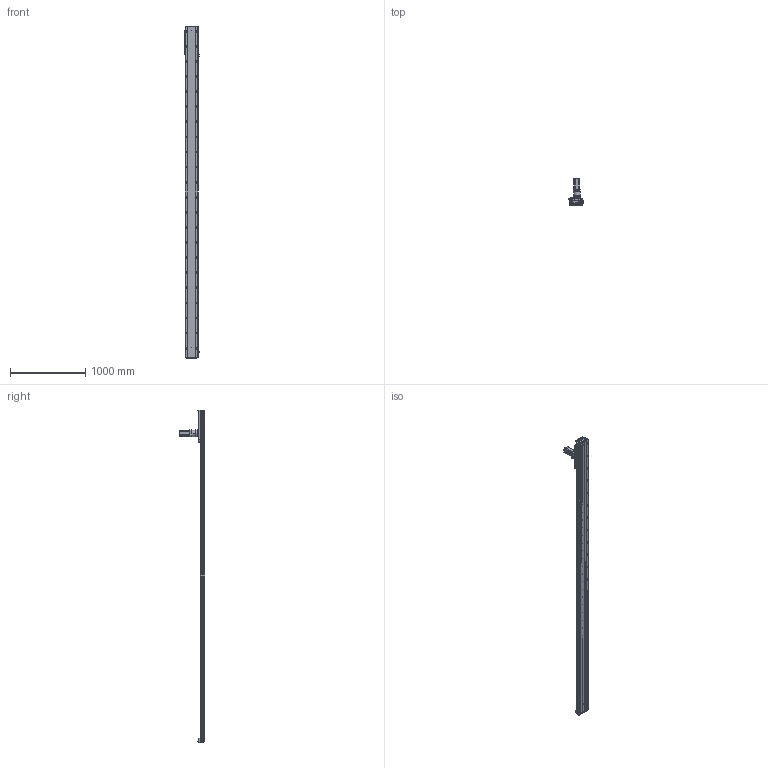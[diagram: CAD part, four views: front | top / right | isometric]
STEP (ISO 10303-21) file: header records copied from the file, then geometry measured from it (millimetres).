
FILE_DESCRIPTION (( 'STEP AP203' ), '1' );
FILE_NAME ('RY170-C-1000-UK.SLDASM_3900.step', '2021-03-03T00:49:37', ( '盈信电脑' ), ( '东莞市道滘镇水果街19号' ), 'SwSTEP 2.0', 'SolidWorks 2012', '' );
FILE_SCHEMA (( 'CONFIG_CONTROL_DESIGN' ));
Products named in the file (13): RY170-喘沭賑輸; RY170-C-1000-UK.SLDASM_3900; RY170-喘沭滅袉蝶輸; 怢湛750W萇儂ㄗ80遺ㄘ; 左旋斜齿齿轮_M2_22齿_内孔20; TF080等撰; RY170綴裔啣ㄗ蜊秶ㄘ; RY170外置感应片(200共用）; 覜茼ん672; RY170-喘謫萇儂覃誹啣; RY170-1000-喘沭耀郪絳寢EGH20CA_3900; 絳寢賑輸EGH20CA; RY170-1000齿条模组型材底座_3900
Assembly tree (22 placements, depth 2):
  RY170-C-1000-UK.SLDASM_3900
    RY170-1000齿条模组型材底座_3900
    絳寢賑輸EGH20CA  x6
    RY170-1000-喘沭耀郪絳寢EGH20CA_3900  x2
    RY170綴裔啣ㄗ蜊秶ㄘ  x2
    覜茼ん672  x3
    RY170外置感应片(200共用）
    RY170-喘謫萇儂覃誹啣
    怢湛750W萇儂ㄗ80遺ㄘ
    RY170-喘沭滅袉蝶輸  x2
    TF080等撰
    左旋斜齿齿轮_M2_22齿_内孔20
    RY170-喘沭賑輸
Bounding box: 188.7 x 343.5 x 4400 mm (x, y, z)
Volume: 21097936.7 mm3; surface area: 5543928.5 mm2
Topology: 24 solids, 24 shells, 5375 faces, 15418 edges, 9787 vertices
Faces by surface type: plane 2433, cylinder 2402, cone 486, bspline 50, torus 4
Entity records: 127866 total; most frequent: CARTESIAN_POINT 32035, ORIENTED_EDGE 20286, DIRECTION 19366, EDGE_CURVE 10143, AXIS2_PLACEMENT_3D 7281, VERTEX_POINT 6589, LINE 4804, VECTOR 4804
